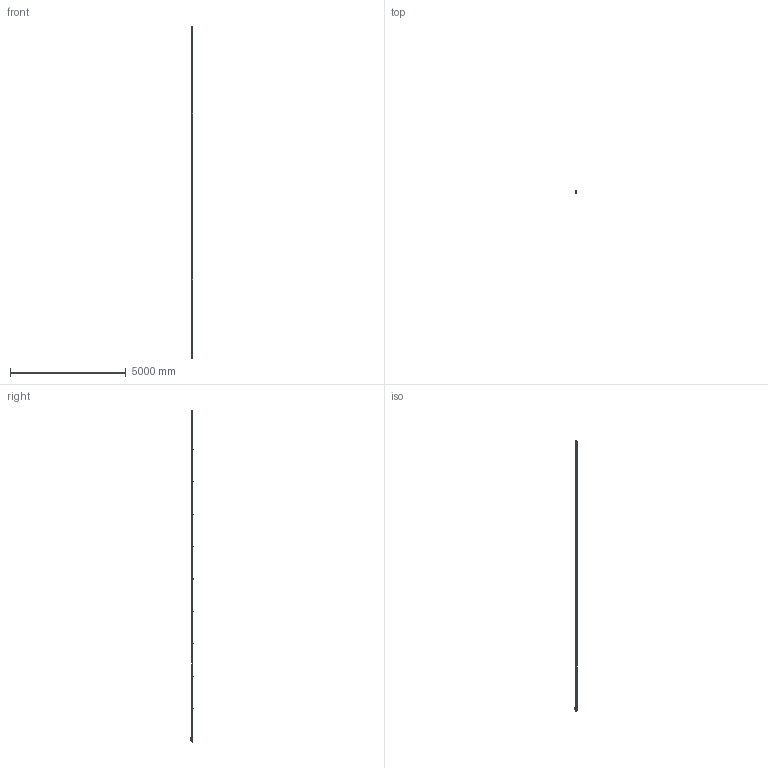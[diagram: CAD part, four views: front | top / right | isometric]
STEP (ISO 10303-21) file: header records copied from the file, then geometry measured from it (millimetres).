
FILE_DESCRIPTION(('Creo Elements/Direct Modeling STEP Export'),'2;1');
FILE_NAME('L-140.stp','2011-11-29T13:05:58',(''),(''),'Creo Elements/Direct Modeling STEP processor for AP214 (Solid Model)','Creo Elements/Direct Modeling 17.0C 05-Feb-2011 (C) Parametric Technology GmbH','');
FILE_SCHEMA(('AUTOMOTIVE_DESIGN { 1 0 10303 214 1 1 1 1 }'));
Length unit declared in the file: millimetre
Products named in the file (5): Modulo_der_(14-ET); Modulos_intermedio_(FL-14).4.2.2; Modulo_izq_(L-KT); CABEZA; L-140
Assembly tree (11 placements, depth 2):
  L-140
    Modulos_intermedio_(FL-14).4.2.2  x8
    CABEZA
    Modulo_izq_(L-KT)
    Modulo_der_(14-ET)
Bounding box: 51.5 x 87.95 x 14349.1 mm (x, y, z)
Volume: 32237246.4 mm3; surface area: 4235293.7 mm2
Topology: 32 solids, 128 shells, 7147 faces, 19799 edges, 12673 vertices
Faces by surface type: cylinder 3136, plane 2763, cone 538, torus 343, bspline 251, extrusion 90, sphere 26
Entity records: 127120 total; most frequent: CARTESIAN_POINT 36677, ORIENTED_EDGE 19098, DIRECTION 17038, EDGE_CURVE 9529, VERTEX_POINT 6175, AXIS2_PLACEMENT_3D 6040, VECTOR 4958, LINE 4938
